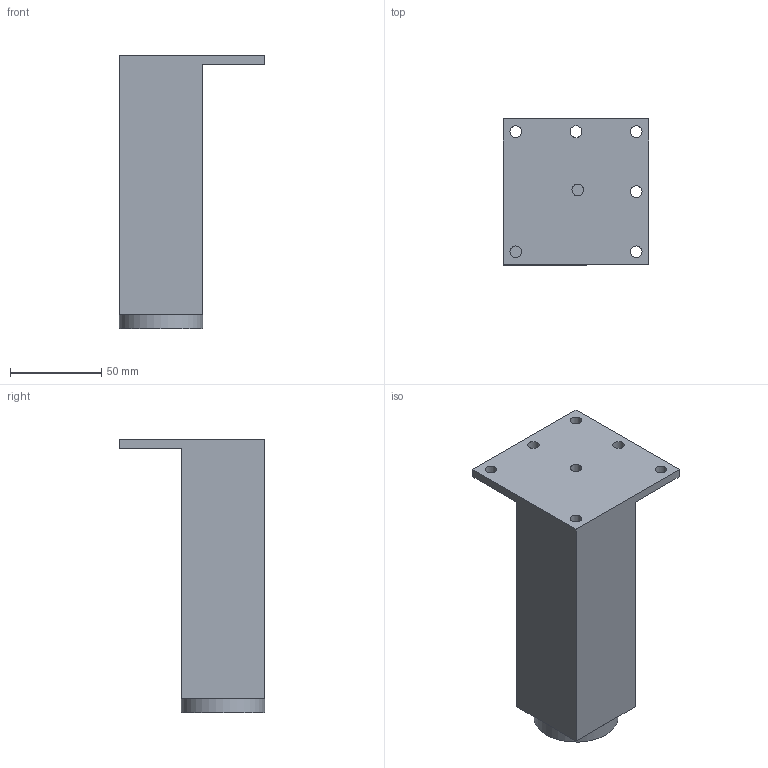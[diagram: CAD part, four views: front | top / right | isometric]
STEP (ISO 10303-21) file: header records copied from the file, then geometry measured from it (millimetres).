
FILE_DESCRIPTION( ( 'STEP AP214' ), '1' );
FILE_NAME( 'D:/Yug/2021/Desk_and_office_organisation/QC/9119545.stp', '2021-01-06T05:13:49', ( '' ), ( '' ), ' ', 'PARTsolutions', ' ' );
FILE_SCHEMA( ( 'AUTOMOTIVE_DESIGN { 1 0 10303 214 1 1 1 1 }' ) );
Length unit declared in the file: millimetre
Products named in the file (1): _9119545
Bounding box: 80 x 80 x 150 mm (x, y, z)
Volume: 334260 mm3; surface area: 41166.6 mm2
Topology: 1 solids, 1 shells, 23 faces, 52 edges, 33 vertices
Faces by surface type: plane 15, cylinder 8
Full cylindrical faces by diameter (mm): 6.48 x7, 46 x1
Entity records: 825 total; most frequent: DIRECTION 111, CARTESIAN_POINT 101, ORIENTED_EDGE 88, EDGE_CURVE 44, AXIS2_PLACEMENT_3D 43, EDGE_LOOP 43, VERTEX_POINT 33, FACE_OUTER_BOUND 31
